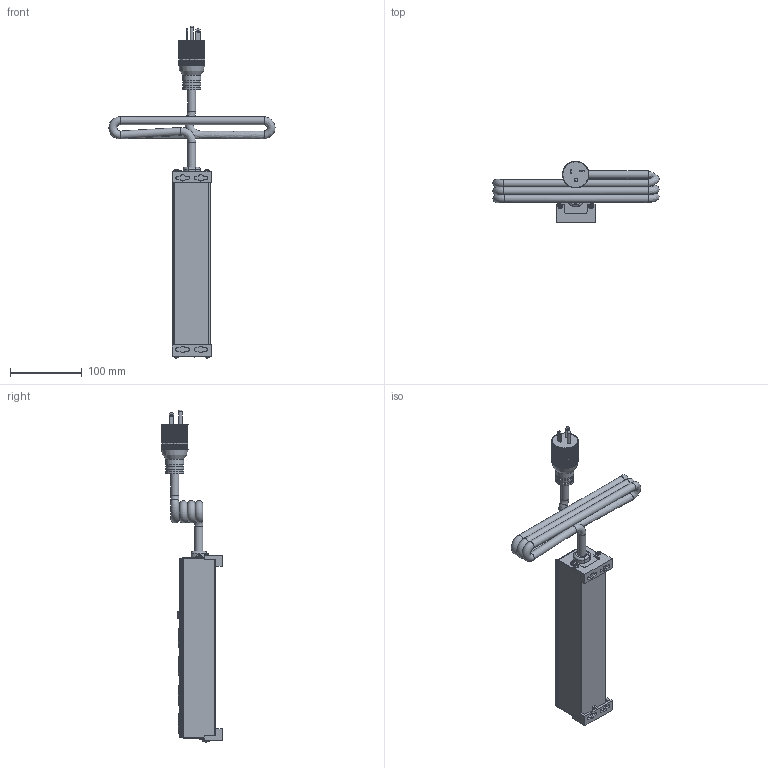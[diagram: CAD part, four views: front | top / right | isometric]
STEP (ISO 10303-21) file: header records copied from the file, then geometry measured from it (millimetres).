
FILE_DESCRIPTION((''),'2;1');
FILE_NAME('E:\Dutton\Manufacturing\drawings\Updated 2009\POWER BARS\1589 series\STEP''s\1589H4F1.stp','2009-12-29T08:50:34',('tfoster'),(''),'Autodesk Inventor 2010','Autodesk Inventor 2010','');
FILE_SCHEMA(('AUTOMOTIVE_DESIGN { 1 0 10303 214 1 1 1 1 }'));
Products named in the file (13): 1589H4F1; 4 Outlet extrusion; 4 outlet; #6x0.5 type A; Reset Switch; round head 1-way 8-32 x 0.5 screw; toothwasher; 20 amp Cored; Power Switch Assembly; Power Switch; Power Switch pt; 20 Amp Receptacle; Mounting Bracket
Assembly tree (19 placements, depth 3):
  1589H4F1
    4 Outlet extrusion
    4 outlet
    #6x0.5 type A  x4
    Reset Switch
    round head 1-way 8-32 x 0.5 screw
    toothwasher
    20 amp Cored
    Power Switch Assembly
      Power Switch
      Power Switch pt
    20 Amp Receptacle  x4
    Mounting Bracket  x2
Bounding box: 232.04 x 84.81 x 463.37 mm (x, y, z)
Volume: 365937.8 mm3; surface area: 216314.4 mm2
Topology: 18 solids, 18 shells, 1118 faces, 3344 edges, 2270 vertices
Faces by surface type: plane 725, cylinder 227, bspline 99, cone 29, sphere 22, torus 16
Full cylindrical faces by diameter (mm): 1 x2, 1.803 x3, 1.905 x2, 3.2 x2, 4.3 x1, 4.648 x5, 4.826 x1, 7.849 x1, 11 x4, 12.5 x1, 22.606 x2, 25.146 x3
Entity records: 28894 total; most frequent: CARTESIAN_POINT 8617, ORIENTED_EDGE 4358, DIRECTION 3858, EDGE_CURVE 2179, VERTEX_POINT 1494, VECTOR 1380, LINE 1380, AXIS2_PLACEMENT_3D 1239
